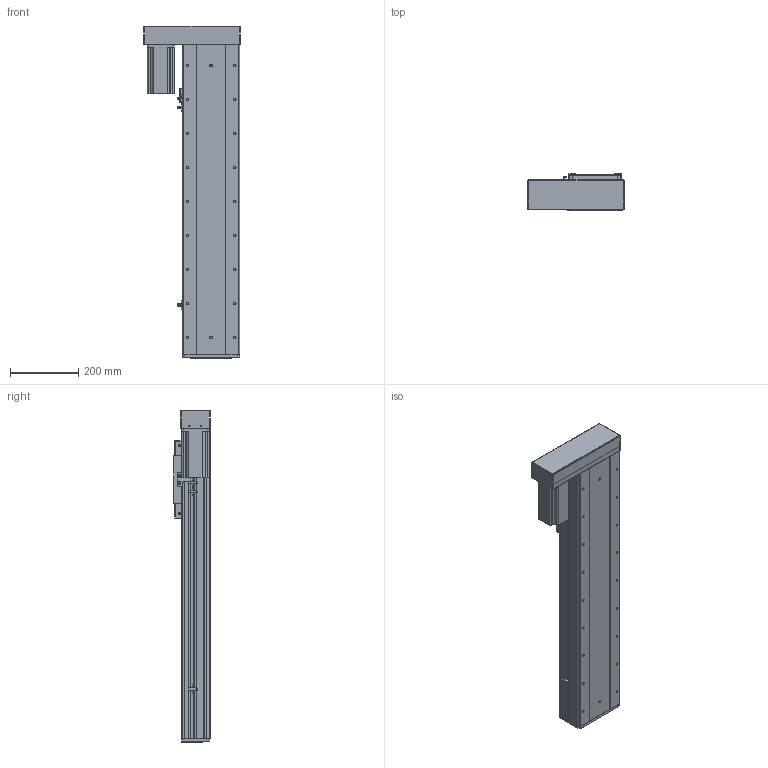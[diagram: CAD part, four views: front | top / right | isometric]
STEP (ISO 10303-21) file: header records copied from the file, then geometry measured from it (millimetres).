
FILE_DESCRIPTION (( 'STEP AP203' ), '1' );
FILE_NAME ('RY170F-L2020-300-LK.SLDASM_600.step', '2021-03-02T09:00:34', ( '盈信电脑' ), ( '东莞市道滘镇水果街19号' ), 'SwSTEP 2.0', 'SolidWorks 2012', '' );
FILE_SCHEMA (( 'CONFIG_CONTROL_DESIGN' ));
Products named in the file (20): 怢湛750W萇儂ㄗ80遺ㄘ; RY170F酘衵殏萇儂欶; RY170F-L2020-300-LK.SLDASM_600; 侐源滅袉蝶; RY170F-蛌殏萇儂假蚾啣; RY170F-酘衵殏萇儂釱; 滅袉蝶18-24; RY170F-揤踡謫假蚾粣; RY170F-詩湍揤踡輸; RY170F俋离覜茼え; 覜茼ん672; 滅袉蝶18-10; RY170F-綴裔啣; RY100F-詩湍揤踡謫; RY170F-丝杆铝滑块连接板; RY170F-300眻蟀倰第奻裔啣-LK_600; RY170F-佪裝臏賑輸20蹟譫; RY170F-300眻蟀倰第菁釱-LK_600; RY170F-300眻蟀祥凄詩湍-LK_600; RY170F-滅鳥奻裔
Assembly tree (24 placements, depth 2):
  RY170F-L2020-300-LK.SLDASM_600
    RY170F-滅鳥奻裔
    RY170F-300眻蟀祥凄詩湍-LK_600
    RY170F-300眻蟀倰第菁釱-LK_600
    RY170F-佪裝臏賑輸20蹟譫
    RY170F-丝杆铝滑块连接板
    RY170F-300眻蟀倰第奻裔啣-LK_600  x2
    滅袉蝶18-10
    RY100F-詩湍揤踡謫
    RY170F-綴裔啣
    覜茼ん672  x3
    RY170F俋离覜茼え
    RY170F-揤踡謫假蚾粣
    RY170F-詩湍揤踡輸  x2
    滅袉蝶18-24
    侐源滅袉蝶  x2
    RY170F-酘衵殏萇儂釱
    RY170F-蛌殏萇儂假蚾啣
    怢湛750W萇儂ㄗ80遺ㄘ
    RY170F酘衵殏萇儂欶
Bounding box: 283 x 107 x 976 mm (x, y, z)
Volume: 6243403.5 mm3; surface area: 1986349.9 mm2
Topology: 24 solids, 24 shells, 1845 faces, 5114 edges, 3244 vertices
Faces by surface type: cylinder 873, plane 760, cone 204, bspline 8
Entity records: 52899 total; most frequent: CARTESIAN_POINT 10672, DIRECTION 8567, ORIENTED_EDGE 8168, EDGE_CURVE 4084, AXIS2_PLACEMENT_3D 3089, VERTEX_POINT 2664, VECTOR 2389, LINE 2389
